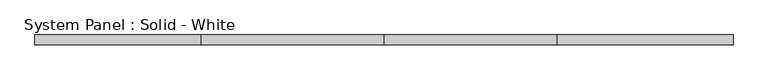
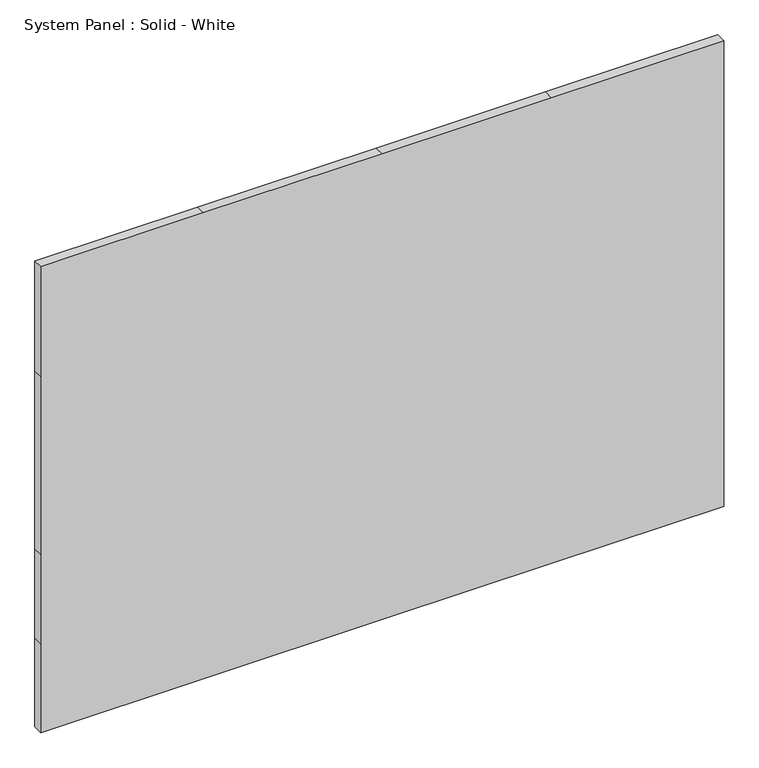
"""IFC4 building model written with IfcOpenShell, lengths in millimetres: plate geometry, System Panel : Solid - White."""

from ifc_helpers import new_model, si_unit, frame, origin, place, context, project, spatial, polyline, outline, extrude, source, transform, mapped, element, save


def system_panel_solid_white_78c88414(model_context):
    return source(origin(), model_context, "Body", "SweptSolid", [
        extrude(outline(polyline([(0.0, -2211.07), (0.0, -1156.335), (0.0, 0.0), (0.0, 1096.01), (0.0, 2211.07), (609.6, 2211.07), (1219.2, 2211.07), (2438.4, 2211.07), (3192.0391834, 2211.07), (3192.0391834, 1096.01), (3192.0391834, 0.0), (3192.0391834, -1156.335), (3192.0391834, -2211.07), (2438.4, -2211.07), (1219.2, -2211.07), (609.6, -2211.07), (0.0, -2211.07)])), frame((0.0, -44.45, 0.0), z_axis=(0.0, 1.0, 0.0), x_axis=(0.0, 0.0, 1.0)), (0.0, 0.0, 1.0), 63.5),
    ])


if __name__ == "__main__":
    model = new_model("IFC4")
    model_context = context("Model", 3, world=origin())
    ifc_project = project(units=[si_unit("LENGTHUNIT", "METRE", prefix="MILLI")], contexts=[model_context])
    site = spatial("IfcSite", under=ifc_project)
    building = spatial("IfcBuilding", under=site)
    placement = place(None, origin())
    system_panel_solid_white_shape = system_panel_solid_white_78c88414(model_context)
    element("IfcPlate", 1, ObjectType="System Panel : Solid - White", at=placement, inside=building, context=model_context, shape_type="MappedRepresentation", body=[
        mapped(system_panel_solid_white_shape, transform((0.0, 0.0, 0.0), x_axis=(1.0, 0.0, 0.0), y_axis=(0.0, 1.0, 0.0), z_axis=(0.0, 0.0, 1.0))),
    ])
    save(model, "model.ifc")
